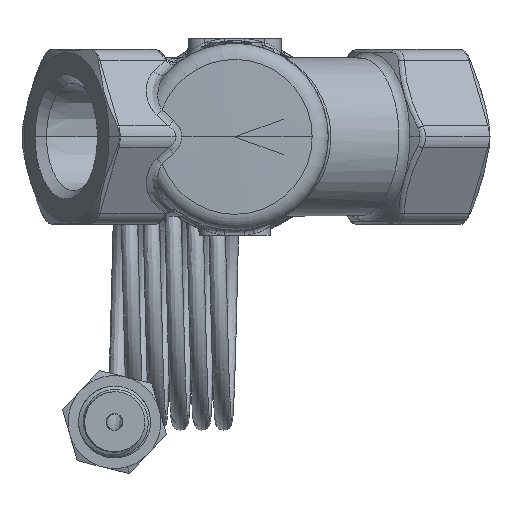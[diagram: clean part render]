
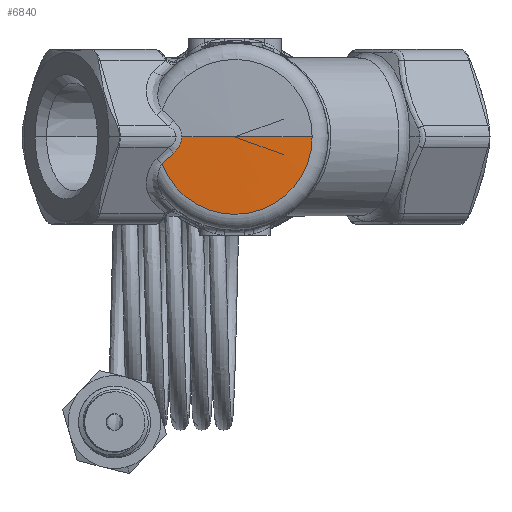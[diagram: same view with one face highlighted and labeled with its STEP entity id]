
A CAD part, front view. The second image highlights one B-rep face of the part: STEP entity #6840.
In plain terms, the highlighted conical face has half-angle 88.5 degrees and reference radius 14.178 mm.
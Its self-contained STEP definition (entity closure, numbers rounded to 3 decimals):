
#1297 = LINE ( 'NONE', #17540, #5913 ) ;
#3633 = ORIENTED_EDGE ( 'NONE', *, *, #12675, .T. ) ;
#3898 = DIRECTION ( 'NONE',  ( 0., 1., 0. ) ) ;
#3926 = CARTESIAN_POINT ( 'NONE',  ( -15.103, -56.952, -4.264 ) ) ;
#4613 = CARTESIAN_POINT ( 'NONE',  ( -12.178, -57.047, 0. ) ) ;
#4795 = CARTESIAN_POINT ( 'NONE',  ( -13.287, -57.01, -2.585 ) ) ;
#5018 = ORIENTED_EDGE ( 'NONE', *, *, #18815, .T. ) ;
#5913 = VECTOR ( 'NONE', #31759, 1000. ) ;
#6645 = CARTESIAN_POINT ( 'NONE',  ( -13.7, -56.996, -2.987 ) ) ;
#6840 = ADVANCED_FACE ( 'NONE', ( #26081 ), #29939, .T. ) ;
#6905 = EDGE_CURVE ( 'NONE', #16454, #31698, #18405, .T. ) ;
#7321 = CARTESIAN_POINT ( 'NONE',  ( -12.481, -57.036, -1.396 ) ) ;
#7717 = DIRECTION ( 'NONE',  ( 0., -1., 0. ) ) ;
#8033 = VERTEX_POINT ( 'NONE', #14393 ) ;
#8072 = CARTESIAN_POINT ( 'NONE',  ( -2.5, -57.3, 0. ) ) ;
#8350 = ORIENTED_EDGE ( 'NONE', *, *, #12754, .F. ) ;
#9356 = EDGE_LOOP ( 'NONE', ( #8350, #17829, #14305, #5018, #3633 ) ) ;
#9863 = CARTESIAN_POINT ( 'NONE',  ( -15.804, -56.929, -4.904 ) ) ;
#12675 = EDGE_CURVE ( 'NONE', #30083, #8033, #15145, .T. ) ;
#12754 = EDGE_CURVE ( 'NONE', #27942, #8033, #1297, .T. ) ;
#13419 = CARTESIAN_POINT ( 'NONE',  ( -13.7, -56.996, -2.987 ) ) ;
#13480 = CARTESIAN_POINT ( 'NONE',  ( -2.5, -56.929, 0. ) ) ;
#14305 = ORIENTED_EDGE ( 'NONE', *, *, #6905, .T. ) ;
#14393 = CARTESIAN_POINT ( 'NONE',  ( 11.679, -56.929, 0. ) ) ;
#15145 = CIRCLE ( 'NONE', #19088, 14.179 ) ;
#15282 = CARTESIAN_POINT ( 'NONE',  ( -16.679, -56.929, 0. ) ) ;
#15450 = CARTESIAN_POINT ( 'NONE',  ( -13.486, -57.003, -2.792 ) ) ;
#16454 = VERTEX_POINT ( 'NONE', #21968 ) ;
#17259 = LINE ( 'NONE', #15282, #21808 ) ;
#17540 = CARTESIAN_POINT ( 'NONE',  ( 11.679, -56.929, 0. ) ) ;
#17829 = ORIENTED_EDGE ( 'NONE', *, *, #22709, .T. ) ;
#18405 = B_SPLINE_CURVE_WITH_KNOTS ( 'NONE', 3,
 ( #4613, #32012, #29492, #26613, #31656, #32187, #7321, #24077, #26258, #4795, #15450, #21202 ),
 .UNSPECIFIED., .F., .F.,
 ( 4, 2, 2, 2, 2, 4 ),
 ( 0.003, 0.004, 0.004, 0.005, 0.006, 0.007 ),
 .UNSPECIFIED. ) ;
#18815 = EDGE_CURVE ( 'NONE', #31698, #30083, #23424, .T. ) ;
#18992 = AXIS2_PLACEMENT_3D ( 'NONE', #19960, #3898, #30950 ) ;
#19088 = AXIS2_PLACEMENT_3D ( 'NONE', #13480, #7717, #32938 ) ;
#19960 = CARTESIAN_POINT ( 'NONE',  ( -2.5, -56.929, 0. ) ) ;
#21202 = CARTESIAN_POINT ( 'NONE',  ( -13.7, -56.996, -2.987 ) ) ;
#21808 = VECTOR ( 'NONE', #28255, 1000. ) ;
#21968 = CARTESIAN_POINT ( 'NONE',  ( -12.178, -57.047, 0. ) ) ;
#22709 = EDGE_CURVE ( 'NONE', #27942, #16454, #17259, .T. ) ;
#23424 = B_SPLINE_CURVE_WITH_KNOTS ( 'NONE', 3,
 ( #6645, #28636, #3926, #9863 ),
 .UNSPECIFIED., .F., .F.,
 ( 4, 4 ),
 ( 0., 0.003 ),
 .UNSPECIFIED. ) ;
#24077 = CARTESIAN_POINT ( 'NONE',  ( -12.759, -57.027, -1.904 ) ) ;
#26081 = FACE_OUTER_BOUND ( 'NONE', #9356, .T. ) ;
#26258 = CARTESIAN_POINT ( 'NONE',  ( -12.924, -57.021, -2.142 ) ) ;
#26613 = CARTESIAN_POINT ( 'NONE',  ( -12.226, -57.045, -0.569 ) ) ;
#27165 = CARTESIAN_POINT ( 'NONE',  ( -15.804, -56.929, -4.904 ) ) ;
#27942 = VERTEX_POINT ( 'NONE', #8072 ) ;
#28255 = DIRECTION ( 'NONE',  ( -1., 0.026, 0. ) ) ;
#28636 = CARTESIAN_POINT ( 'NONE',  ( -14.402, -56.974, -3.625 ) ) ;
#29492 = CARTESIAN_POINT ( 'NONE',  ( -12.187, -57.046, -0.285 ) ) ;
#29939 = CONICAL_SURFACE ( 'NONE', #18992, 14.179, 1.545 ) ;
#30083 = VERTEX_POINT ( 'NONE', #27165 ) ;
#30950 = DIRECTION ( 'NONE',  ( 1., 0., 0. ) ) ;
#31656 = CARTESIAN_POINT ( 'NONE',  ( -12.256, -57.044, -0.712 ) ) ;
#31698 = VERTEX_POINT ( 'NONE', #13419 ) ;
#31759 = DIRECTION ( 'NONE',  ( 1., 0.026, 0. ) ) ;
#32012 = CARTESIAN_POINT ( 'NONE',  ( -12.178, -57.047, -0.143 ) ) ;
#32187 = CARTESIAN_POINT ( 'NONE',  ( -12.37, -57.04, -1.131 ) ) ;
#32938 = DIRECTION ( 'NONE',  ( -1., 0., 0. ) ) ;
